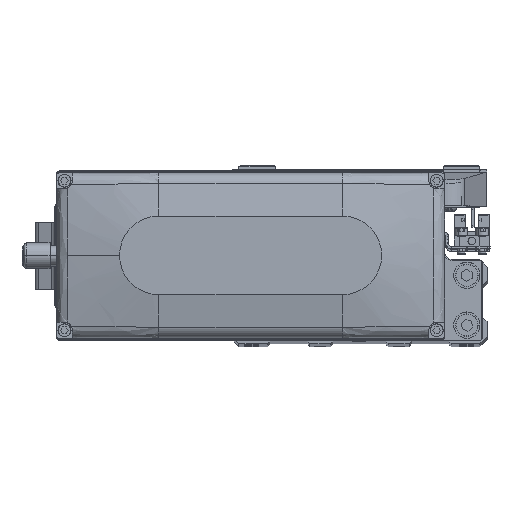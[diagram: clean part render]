
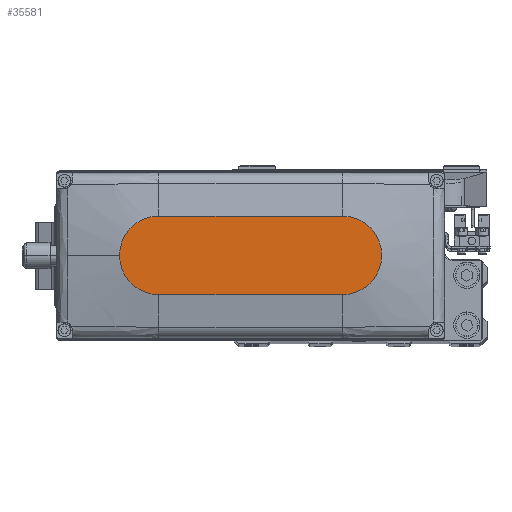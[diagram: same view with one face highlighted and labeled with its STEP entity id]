
A CAD part, top view. The second image highlights one B-rep face of the part: STEP entity #35581.
In plain terms, the highlighted planar face has unit normal (0, 0, 1).
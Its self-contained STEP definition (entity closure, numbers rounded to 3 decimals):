
#2628 = VERTEX_POINT ( 'NONE', #35227 ) ;
#3855 = ORIENTED_EDGE ( 'NONE', *, *, #21523, .T. ) ;
#4857 = DIRECTION ( 'NONE',  ( 0., 0., 1. ) ) ;
#5130 = CARTESIAN_POINT ( 'NONE',  ( -35., 15., 35. ) ) ;
#6904 = ORIENTED_EDGE ( 'NONE', *, *, #40676, .T. ) ;
#7471 = EDGE_LOOP ( 'NONE', ( #6904, #8124, #3855, #20643, #28791 ) ) ;
#8084 = CIRCLE ( 'NONE', #13989, 15. ) ;
#8124 = ORIENTED_EDGE ( 'NONE', *, *, #23533, .T. ) ;
#10009 = CARTESIAN_POINT ( 'NONE',  ( 35., 0., 35. ) ) ;
#10413 = LINE ( 'NONE', #24549, #43596 ) ;
#11683 = CARTESIAN_POINT ( 'NONE',  ( 0., 0., 35. ) ) ;
#11770 = DIRECTION ( 'NONE',  ( 1., 0., 0. ) ) ;
#13137 = AXIS2_PLACEMENT_3D ( 'NONE', #16739, #30837, #44769 ) ;
#13989 = AXIS2_PLACEMENT_3D ( 'NONE', #36452, #4857, #18991 ) ;
#14474 = CARTESIAN_POINT ( 'NONE',  ( -35., -15., 35. ) ) ;
#14505 = VERTEX_POINT ( 'NONE', #14712 ) ;
#14712 = CARTESIAN_POINT ( 'NONE',  ( 35., -15., 35. ) ) ;
#15941 = CIRCLE ( 'NONE', #41630, 15. ) ;
#16550 = CARTESIAN_POINT ( 'NONE',  ( 50., 0., 35. ) ) ;
#16739 = CARTESIAN_POINT ( 'NONE',  ( 35., 0., 35. ) ) ;
#16926 = VERTEX_POINT ( 'NONE', #5130 ) ;
#18991 = DIRECTION ( 'NONE',  ( 1., 0., 0. ) ) ;
#20643 = ORIENTED_EDGE ( 'NONE', *, *, #44157, .T. ) ;
#21523 = EDGE_CURVE ( 'NONE', #26860, #14505, #29360, .T. ) ;
#23533 = EDGE_CURVE ( 'NONE', #16926, #26860, #8084, .T. ) ;
#24150 = DIRECTION ( 'NONE',  ( 0., 0., 1. ) ) ;
#24549 = CARTESIAN_POINT ( 'NONE',  ( -35., 15., 35. ) ) ;
#25059 = VECTOR ( 'NONE', #11770, 1000. ) ;
#25809 = DIRECTION ( 'NONE',  ( 0., 0., 1. ) ) ;
#26860 = VERTEX_POINT ( 'NONE', #14474 ) ;
#28791 = ORIENTED_EDGE ( 'NONE', *, *, #37120, .T. ) ;
#29264 = FACE_OUTER_BOUND ( 'NONE', #7471, .T. ) ;
#29360 = LINE ( 'NONE', #43283, #25059 ) ;
#30837 = DIRECTION ( 'NONE',  ( 0., 0., 1. ) ) ;
#30978 = VERTEX_POINT ( 'NONE', #16550 ) ;
#32322 = AXIS2_PLACEMENT_3D ( 'NONE', #11683, #25809, #39746 ) ;
#33041 = CIRCLE ( 'NONE', #13137, 15. ) ;
#35227 = CARTESIAN_POINT ( 'NONE',  ( 35., 15., 35. ) ) ;
#35581 = ADVANCED_FACE ( 'NONE', ( #29264 ), #43190, .T. ) ;
#36452 = CARTESIAN_POINT ( 'NONE',  ( -35., 0., 35. ) ) ;
#37120 = EDGE_CURVE ( 'NONE', #30978, #2628, #33041, .T. ) ;
#38129 = DIRECTION ( 'NONE',  ( 1., 0., 0. ) ) ;
#38508 = DIRECTION ( 'NONE',  ( -1., 0., 0. ) ) ;
#39746 = DIRECTION ( 'NONE',  ( 1., 0., 0. ) ) ;
#40676 = EDGE_CURVE ( 'NONE', #2628, #16926, #10413, .T. ) ;
#41630 = AXIS2_PLACEMENT_3D ( 'NONE', #10009, #24150, #38129 ) ;
#43190 = PLANE ( 'NONE',  #32322 ) ;
#43283 = CARTESIAN_POINT ( 'NONE',  ( -35., -15., 35. ) ) ;
#43596 = VECTOR ( 'NONE', #38508, 1000. ) ;
#44157 = EDGE_CURVE ( 'NONE', #14505, #30978, #15941, .T. ) ;
#44769 = DIRECTION ( 'NONE',  ( 1., 0., 0. ) ) ;
